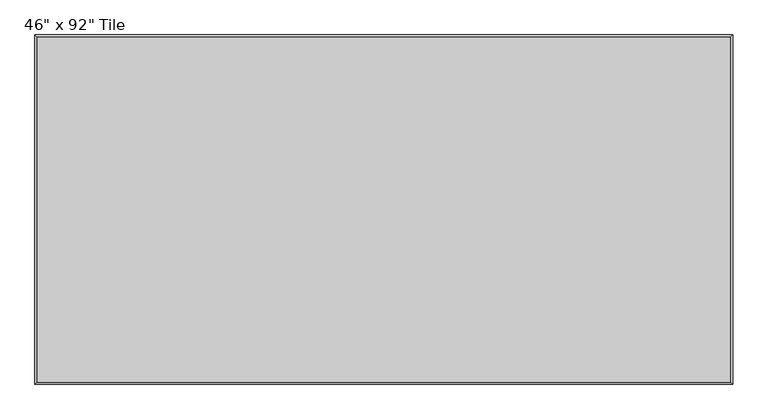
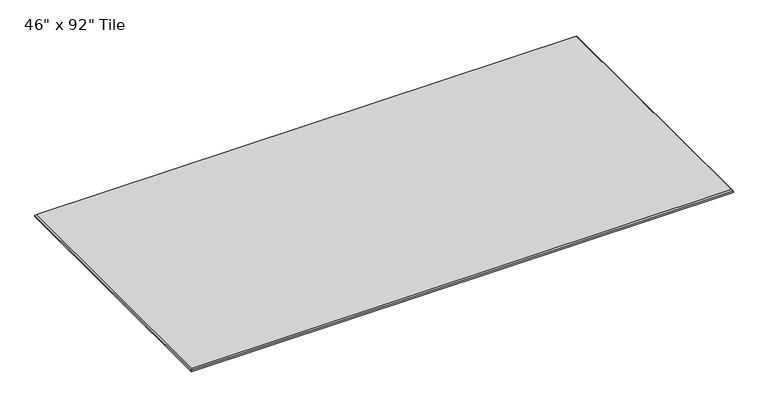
"""IFC4 building model written with IfcOpenShell, lengths in millimetres: proxy geometry."""

from ifc_helpers import new_model, si_unit, origin, place, context, project, spatial, faceted_brep, source, transform, mapped, element, save


def proxy_796f25b3(model_context):
    return source(origin(), model_context, "Body", "Brep", [
        faceted_brep([(1721.6945313, -578.6945313, 12.0054687), (1721.6945313, 578.6945312, 12.0054687), (-604.0945312, 578.6945312, 12.0054687), (-604.0945312, -578.6945313, 12.0054687), (1727.2, 584.2, 0.0), (1727.2, -584.2, 0.0), (-609.6, -584.2, 0.0), (-609.6, 584.2, 0.0), (-609.6, 584.2, 6.5), (1727.2, 584.2, 6.5), (-609.6, -584.2, 6.5), (1727.2, -584.2, 6.5)], [[[0, 1, 2, 3]], [[4, 5, 6, 7]], [[4, 7, 8, 9]], [[7, 6, 10, 8]], [[6, 5, 11, 10]], [[5, 4, 9, 11]], [[9, 1, 0, 11]], [[1, 9, 8, 2]], [[2, 8, 10, 3]], [[11, 0, 3, 10]]]),
    ])


if __name__ == "__main__":
    model = new_model("IFC4")
    model_context = context("Model", 3, world=origin())
    ifc_project = project(units=[si_unit("LENGTHUNIT", "METRE", prefix="MILLI")], contexts=[model_context])
    site = spatial("IfcSite", under=ifc_project)
    building = spatial("IfcBuilding", under=site)
    placement = place(None, origin())
    proxy_shape = proxy_796f25b3(model_context)
    element("IfcBuildingElementProxy", 1, Name="Wall-Panel-Kirei-EchoPanel-Echotile_Sync : 46\" x 92\" Tile", ObjectType="Wall-Panel-Kirei-EchoPanel-Echotile_Sync : 46\" x 92\" Tile", at=placement, inside=building, context=model_context, shape_type="MappedRepresentation", body=[
        mapped(proxy_shape, transform((0.0, 0.0, 0.0), x_axis=(1.0, 0.0, 0.0), y_axis=(0.0, 1.0, 0.0), z_axis=(0.0, 0.0, 1.0))),
    ])
    save(model, "model.ifc")
